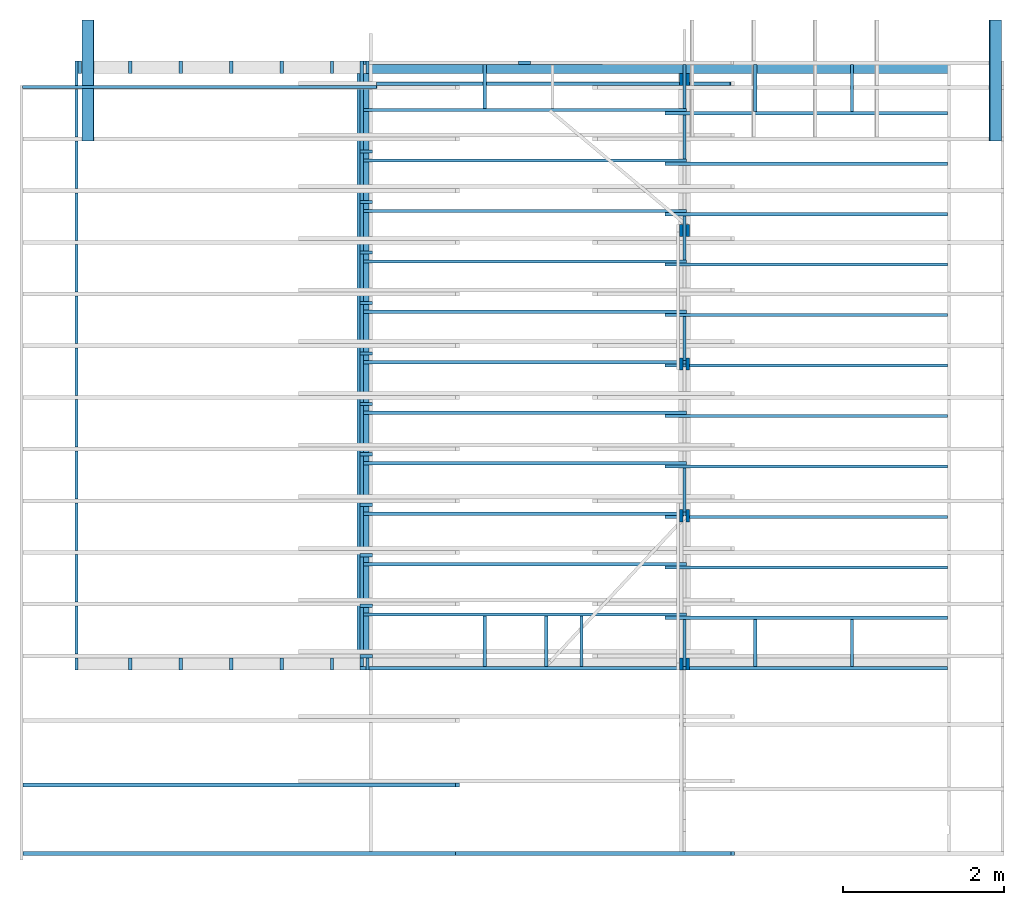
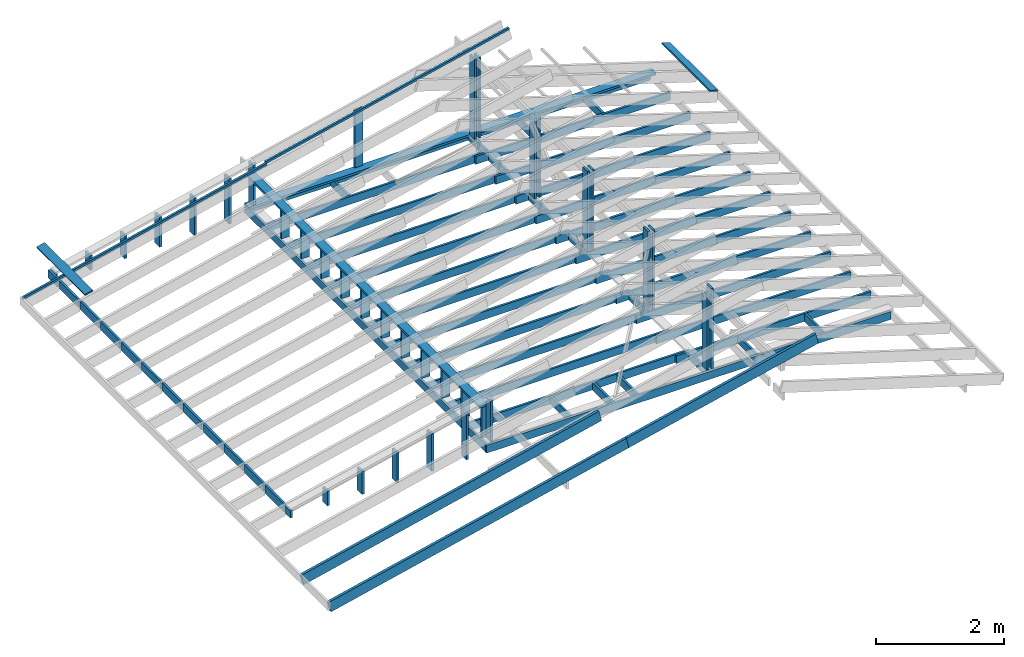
# One storey, part 1 of 6: 60 beams, 36 columns.
"""IFC4 building model written with IfcOpenShell, lengths in millimetres."""

from ifc_helpers import new_model, si_unit, derived_unit, frame, origin_with_axes, place, context, subcontext, project, spatial, line, indexed_curve, outline, extrude, polygons, source, transform, mapped, material, type_object, element, save


model = new_model("IFC4")

# Units and contexts
model_context = context("Model", 3, precision=1e-06, world=origin_with_axes())
body_context = subcontext(model_context, "Body", "Model", "MODEL_VIEW")
ifc_project = project(units=[si_unit("LENGTHUNIT", "METRE", prefix="MILLI"), si_unit("AREAUNIT", "SQUARE_METRE"), si_unit("VOLUMEUNIT", "CUBIC_METRE"), si_unit("MASSUNIT", "GRAM", prefix="KILO"), si_unit("ELECTRICVOLTAGEUNIT", "VOLT", prefix="KILO"), si_unit("THERMODYNAMICTEMPERATUREUNIT", "DEGREE_CELSIUS"), si_unit("PRESSUREUNIT", "PASCAL", prefix="MEGA"), si_unit("PLANEANGLEUNIT", "RADIAN"), derived_unit("THERMALCONDUCTANCEUNIT", [(si_unit("POWERUNIT", "WATT"), 1), (si_unit("LENGTHUNIT", "METRE"), -1), (si_unit("THERMODYNAMICTEMPERATUREUNIT", "KELVIN"), -1)]), derived_unit("MASSDENSITYUNIT", [(si_unit("MASSUNIT", "GRAM", prefix="KILO"), 1), (si_unit("VOLUMEUNIT", "CUBIC_METRE"), -1)])], contexts=[model_context])

# Site, building, storey
site_placement = place(None, origin_with_axes())
site = spatial("IfcSite", under=ifc_project, at=site_placement, CompositionType="ELEMENT")
building_placement = place(site_placement, origin_with_axes())
building = spatial("IfcBuilding", under=site, at=building_placement, CompositionType="ELEMENT")
storey_placement = place(building_placement, frame((0.0, 0.0, 2620.0), z_axis=(0.0, 0.0, 1.0), x_axis=(1.0, 0.0, 0.0)))
storey = spatial("IfcBuildingStorey", under=building, at=storey_placement, Name="Кровля", CompositionType="ELEMENT", Elevation=2620.0)

# Columns
ifc_material_1 = material(Name="Древесина тёмная")
column_type = type_object("IfcColumnType", Name="Доска 40x150", PredefinedType="COLUMN")
shared_shape_1 = source(origin_with_axes(), body_context, "Body", "SweptSolid", [
    extrude(outline(indexed_curve([(-75.0, -20.0), (75.0, -20.0), (75.0, 20.0), (-75.0, 20.0)], segments=[line(1, 2), line(2, 3), line(3, 4), line(4, 1)])), origin_with_axes(), (0.0, 0.0, 1.0), 587.0),
])
for number, where, z_axis, x_axis in (
    (1, (3607.5, 170.00000000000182, 190.0), (0.0, 0.0, 1.0), (1.0, 0.0, 0.0)),
    (2, (3607.5, 795.0000000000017, 190.0), (0.0, 0.0, 1.0), (1.0, 0.0, 0.0)),
    (3, (3607.5, 1420.0000000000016, 190.0), (0.0, 0.0, 1.0), (1.0, 0.0, 0.0)),
    (4, (3607.5, 2045.0000000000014, 190.0), (0.0, 0.0, 1.0), (1.0, 0.0, 0.0)),
    (5, (3607.5, 2670.0000000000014, 190.0), (0.0, 0.0, 1.0), (1.0, 0.0, 0.0)),
    (6, (3607.5, 3295.0000000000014, 190.0), (0.0, 0.0, 1.0), (1.0, 0.0, 0.0)),
    (7, (3607.5, 3920.000000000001, 190.0), (0.0, 0.0, 1.0), (1.0, 0.0, 0.0)),
    (8, (3607.5, 4545.000000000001, 190.0), (0.0, 0.0, 1.0), (1.0, 0.0, 0.0)),
    (9, (3607.5, 5170.000000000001, 190.0), (0.0, 0.0, 1.0), (1.0, 0.0, 0.0)),
    (10, (3607.5, 5795.000000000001, 190.0), (0.0, 0.0, 1.0), (1.0, 0.0, 0.0)),
    (11, (3607.5, 6420.000000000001, 190.0), (0.0, 0.0, 1.0), (1.0, 0.0, 0.0)),
):
    element("IfcColumn", number, at=place(storey_placement, frame(where, z_axis=z_axis, x_axis=x_axis)), inside=storey, type_object=column_type, material=ifc_material_1, Name="Колонна - Доска 40x150", context=body_context, shape_type="MappedRepresentation", body=[
        mapped(shared_shape_1, transform((0.0, 0.0, 0.0), x_axis=(1.0, 0.0, 0.0), y_axis=(0.0, 1.0, 0.0), z_axis=(0.0, 0.0, 1.0), scale=1.0)),
    ])
shared_shape_2 = source(origin_with_axes(), body_context, "Body", "SweptSolid", [
    extrude(outline(indexed_curve([(-75.0, -20.0), (75.0, -20.0), (75.0, 20.0), (-75.0, 20.0)], segments=[line(1, 2), line(2, 3), line(3, 4), line(4, 1)])), origin_with_axes(), (0.0, 0.0, 1.0), 1375.0),
])
column_1_placement = place(storey_placement, frame((7510.0, 74.99999999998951, 188.4051771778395), z_axis=(0.0, 0.0, 1.0), x_axis=(0.0, 1.0, 0.0)))
element("IfcColumn", 12, at=column_1_placement, inside=storey, type_object=column_type, material=ifc_material_1, Name="Колонна - Доска 40x150", context=body_context, shape_type="MappedRepresentation", body=[
    mapped(shared_shape_2, transform((0.0, 0.0, 0.0), x_axis=(1.0, 0.0, 0.0), y_axis=(0.0, 1.0, 0.0), z_axis=(0.0, 0.0, 1.0), scale=1.0)),
])
shared_shape_3 = source(origin_with_axes(), body_context, "Body", "SweptSolid", [
    extrude(outline(indexed_curve([(-75.0, -20.0), (75.0, -20.0), (75.0, 20.0), (-75.0, 20.0)], segments=[line(1, 2), line(2, 3), line(3, 4), line(4, 1)])), origin_with_axes(), (0.0, 0.0, 1.0), 1525.0),
])
for number, where, z_axis, x_axis in (
    (13, (7590.0, 74.99999999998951, 188.4051771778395), (0.0, 0.0, 1.0), (0.0, 1.0, 0.0)),
    (14, (7510.0, 1909.9999999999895, 188.4051771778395), (0.0, 0.0, 1.0), (0.0, 1.0, 0.0)),
    (15, (7590.0, 1909.9999999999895, 188.4051771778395), (0.0, 0.0, 1.0), (0.0, 1.0, 0.0)),
    (16, (7510.0, 3789.9999999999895, 188.4051771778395), (0.0, 0.0, 1.0), (0.0, 1.0, 0.0)),
    (17, (7590.0, 3789.9999999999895, 188.4051771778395), (0.0, 0.0, 1.0), (0.0, 1.0, 0.0)),
    (18, (7510.000000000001, 5444.999999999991, 188.4051771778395), (0.0, 0.0, 1.0), (0.0, 1.0, 0.0)),
    (19, (7590.000000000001, 5444.999999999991, 188.4051771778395), (0.0, 0.0, 1.0), (0.0, 1.0, 0.0)),
    (20, (7510.000000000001, 7314.999999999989, 188.4051771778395), (0.0, 0.0, 1.0), (0.0, 1.0, 0.0)),
    (21, (7590.000000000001, 7314.999999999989, 188.4051771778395), (0.0, 0.0, 1.0), (0.0, 1.0, 0.0)),
):
    element("IfcColumn", number, at=place(storey_placement, frame(where, z_axis=z_axis, x_axis=x_axis)), inside=storey, type_object=column_type, material=ifc_material_1, Name="Колонна - Доска 40x150", context=body_context, shape_type="MappedRepresentation", body=[
        mapped(shared_shape_3, transform((0.0, 0.0, 0.0), x_axis=(1.0, 0.0, 0.0), y_axis=(0.0, 1.0, 0.0), z_axis=(0.0, 0.0, 1.0), scale=1.0)),
    ])
shared_shape_4 = source(origin_with_axes(), body_context, "Body", "SweptSolid", [
    extrude(outline(indexed_curve([(-75.0, -20.0), (75.0, -20.0), (75.0, 20.0), (-75.0, 20.0)], segments=[line(1, 2), line(2, 3), line(3, 4), line(4, 1)])), origin_with_axes(), (0.0, 0.0, 1.0), 774.0),
])
for number, where, z_axis, x_axis in (
    (22, (3622.5, 74.99999999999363, 190.0), (0.0, 0.0, 1.0), (0.0, 1.0, 0.0)),
    (23, (3622.5000000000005, 7464.99999999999, 189.99999999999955), (0.0, 0.0, 1.0), (0.0, 1.0, 0.0)),
):
    element("IfcColumn", number, at=place(storey_placement, frame(where, z_axis=z_axis, x_axis=x_axis)), inside=storey, type_object=column_type, material=ifc_material_1, Name="Колонна - Доска 40x150", context=body_context, shape_type="MappedRepresentation", body=[
        mapped(shared_shape_4, transform((0.0, 0.0, 0.0), x_axis=(1.0, 0.0, 0.0), y_axis=(0.0, 1.0, 0.0), z_axis=(0.0, 0.0, 1.0), scale=1.0)),
    ])
shared_shape_5 = source(origin_with_axes(), body_context, "Body", "SweptSolid", [
    extrude(outline(indexed_curve([(-75.0, -20.0), (75.0, -20.0), (75.0, 20.0), (-75.0, 20.0)], segments=[line(1, 2), line(2, 3), line(3, 4), line(4, 1)])), origin_with_axes(), (0.0, 0.0, 1.0), 142.0),
])
for number, where, z_axis, x_axis in (
    (24, (20.0, 74.99999999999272, 0.0), (0.0, 0.0, 1.0), (0.0, 1.0, 0.0)),
    (25, (60.0, 7464.99999999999, -4.55e-13), (0.0, 0.0, 1.0), (0.0, 1.0, 0.0)),
):
    element("IfcColumn", number, at=place(storey_placement, frame(where, z_axis=z_axis, x_axis=x_axis)), inside=storey, type_object=column_type, material=ifc_material_1, Name="Колонна - Доска 40x150", context=body_context, shape_type="MappedRepresentation", body=[
        mapped(shared_shape_5, transform((0.0, 0.0, 0.0), x_axis=(1.0, 0.0, 0.0), y_axis=(0.0, 1.0, 0.0), z_axis=(0.0, 0.0, 1.0), scale=1.0)),
    ])
shared_shape_6 = source(origin_with_axes(), body_context, "Body", "SweptSolid", [
    extrude(outline(indexed_curve([(-75.0, -20.0), (75.0, -20.0), (75.0, 20.0), (-75.0, 20.0)], segments=[line(1, 2), line(2, 3), line(3, 4), line(4, 1)])), origin_with_axes(), (0.0, 0.0, 1.0), 280.0),
])
for number, where, z_axis, x_axis in (
    (26, (684.9999999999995, 74.99999999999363, 0.0), (0.0, 0.0, 1.0), (0.0, 1.0, 0.0)),
    (27, (684.9999999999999, 7464.99999999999, -4.55e-13), (0.0, 0.0, 1.0), (0.0, 1.0, 0.0)),
):
    element("IfcColumn", number, at=place(storey_placement, frame(where, z_axis=z_axis, x_axis=x_axis)), inside=storey, type_object=column_type, material=ifc_material_1, Name="Колонна - Доска 40x150", context=body_context, shape_type="MappedRepresentation", body=[
        mapped(shared_shape_6, transform((0.0, 0.0, 0.0), x_axis=(1.0, 0.0, 0.0), y_axis=(0.0, 1.0, 0.0), z_axis=(0.0, 0.0, 1.0), scale=1.0)),
    ])
shared_shape_7 = source(origin_with_axes(), body_context, "Body", "SweptSolid", [
    extrude(outline(indexed_curve([(-75.0, -20.0), (75.0, -20.0), (75.0, 20.0), (-75.0, 20.0)], segments=[line(1, 2), line(2, 3), line(3, 4), line(4, 1)])), origin_with_axes(), (0.0, 0.0, 1.0), 432.0),
])
for number, where, z_axis, x_axis in (
    (28, (1309.9999999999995, 74.99999999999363, 0.0), (0.0, 0.0, 1.0), (0.0, 1.0, 0.0)),
    (29, (1309.9999999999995, 7464.99999999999, -4.55e-13), (0.0, 0.0, 1.0), (0.0, 1.0, 0.0)),
):
    element("IfcColumn", number, at=place(storey_placement, frame(where, z_axis=z_axis, x_axis=x_axis)), inside=storey, type_object=column_type, material=ifc_material_1, Name="Колонна - Доска 40x150", context=body_context, shape_type="MappedRepresentation", body=[
        mapped(shared_shape_7, transform((0.0, 0.0, 0.0), x_axis=(1.0, 0.0, 0.0), y_axis=(0.0, 1.0, 0.0), z_axis=(0.0, 0.0, 1.0), scale=1.0)),
    ])
shared_shape_8 = source(origin_with_axes(), body_context, "Body", "SweptSolid", [
    extrude(outline(indexed_curve([(-75.0, -20.0), (75.0, -20.0), (75.0, 20.0), (-75.0, 20.0)], segments=[line(1, 2), line(2, 3), line(3, 4), line(4, 1)])), origin_with_axes(), (0.0, 0.0, 1.0), 570.0),
])
for number, where, z_axis, x_axis in (
    (30, (1934.9999999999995, 74.99999999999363, 0.0), (0.0, 0.0, 1.0), (0.0, 1.0, 0.0)),
    (31, (1934.999999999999, 7464.99999999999, -4.55e-13), (0.0, 0.0, 1.0), (0.0, 1.0, 0.0)),
):
    element("IfcColumn", number, at=place(storey_placement, frame(where, z_axis=z_axis, x_axis=x_axis)), inside=storey, type_object=column_type, material=ifc_material_1, Name="Колонна - Доска 40x150", context=body_context, shape_type="MappedRepresentation", body=[
        mapped(shared_shape_8, transform((0.0, 0.0, 0.0), x_axis=(1.0, 0.0, 0.0), y_axis=(0.0, 1.0, 0.0), z_axis=(0.0, 0.0, 1.0), scale=1.0)),
    ])
shared_shape_9 = source(origin_with_axes(), body_context, "Body", "SweptSolid", [
    extrude(outline(indexed_curve([(-75.0, -20.0), (75.0, -20.0), (75.0, 20.0), (-75.0, 20.0)], segments=[line(1, 2), line(2, 3), line(3, 4), line(4, 1)])), origin_with_axes(), (0.0, 0.0, 1.0), 708.0),
])
for number, where, z_axis, x_axis in (
    (32, (2559.9999999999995, 74.99999999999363, 0.0), (0.0, 0.0, 1.0), (0.0, 1.0, 0.0)),
    (33, (2560.0000000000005, 7464.99999999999, -4.55e-13), (0.0, 0.0, 1.0), (0.0, 1.0, 0.0)),
):
    element("IfcColumn", number, at=place(storey_placement, frame(where, z_axis=z_axis, x_axis=x_axis)), inside=storey, type_object=column_type, material=ifc_material_1, Name="Колонна - Доска 40x150", context=body_context, shape_type="MappedRepresentation", body=[
        mapped(shared_shape_9, transform((0.0, 0.0, 0.0), x_axis=(1.0, 0.0, 0.0), y_axis=(0.0, 1.0, 0.0), z_axis=(0.0, 0.0, 1.0), scale=1.0)),
    ])
shared_shape_10 = source(origin_with_axes(), body_context, "Body", "SweptSolid", [
    extrude(outline(indexed_curve([(-75.0, -20.0), (75.0, -20.0), (75.0, 20.0), (-75.0, 20.0)], segments=[line(1, 2), line(2, 3), line(3, 4), line(4, 1)])), origin_with_axes(), (0.0, 0.0, 1.0), 862.0),
])
for number, where, z_axis, x_axis in (
    (34, (3184.9999999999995, 74.99999999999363, 0.0), (0.0, 0.0, 1.0), (0.0, 1.0, 0.0)),
    (35, (3185.0000000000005, 7464.99999999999, -4.55e-13), (0.0, 0.0, 1.0), (0.0, 1.0, 0.0)),
):
    element("IfcColumn", number, at=place(storey_placement, frame(where, z_axis=z_axis, x_axis=x_axis)), inside=storey, type_object=column_type, material=ifc_material_1, Name="Колонна - Доска 40x150", context=body_context, shape_type="MappedRepresentation", body=[
        mapped(shared_shape_10, transform((0.0, 0.0, 0.0), x_axis=(1.0, 0.0, 0.0), y_axis=(0.0, 1.0, 0.0), z_axis=(0.0, 0.0, 1.0), scale=1.0)),
    ])
shared_shape_11 = source(origin_with_axes(), body_context, "Body", "SweptSolid", [
    extrude(outline(indexed_curve([(-75.0, -20.0), (75.0, -20.0), (75.0, 20.0), (-75.0, 20.0)], segments=[line(1, 2), line(2, 3), line(3, 4), line(4, 1)])), origin_with_axes(), (0.0, 0.0, 1.0), 1100.0),
])
column_2_placement = place(storey_placement, frame((5566.250000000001, 7519.99999999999, 189.99999999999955), z_axis=(0.0, 0.0, 1.0), x_axis=(1.0, 0.0, 0.0)))
element("IfcColumn", 36, at=column_2_placement, inside=storey, type_object=column_type, material=ifc_material_1, Name="Колонна - Доска 40x150", context=body_context, shape_type="MappedRepresentation", body=[
    mapped(shared_shape_11, transform((0.0, 0.0, 0.0), x_axis=(1.0, 0.0, 0.0), y_axis=(0.0, 1.0, 0.0), z_axis=(0.0, 0.0, 1.0), scale=1.0)),
])

# Beams
ifc_material_2 = material(Name="Древесина жел")
beam_type_1 = type_object("IfcBeamType", Name="Доска 40х150", PredefinedType="BEAM")
shared_shape_12 = source(origin_with_axes(), body_context, "Body", "SweptSolid", [
    extrude(outline(indexed_curve([(0.0, -40.0), (150.0, -40.0), (150.0, 4e-15), (0.0, 4e-15)], segments=[line(1, 2), line(2, 3), line(3, 4), line(4, 1)])), origin_with_axes(), (0.0, 0.0, -1.0), 7499.999999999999),
])
beam_1_placement = place(storey_placement, frame((3532.5, 39.99999999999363, 0.0), z_axis=(0.0, -1.0, 0.0), x_axis=(0.0, 0.0, 1.0)))
element("IfcBeam", 37, at=beam_1_placement, inside=storey, type_object=beam_type_1, material=ifc_material_2, Name="Балка - Доска 40х150", context=body_context, shape_type="MappedRepresentation", body=[
    mapped(shared_shape_12, transform((0.0, 0.0, 0.0), x_axis=(1.0, 0.0, 0.0), y_axis=(0.0, 1.0, 0.0), z_axis=(0.0, 0.0, 1.0), scale=1.0)),
])
shared_shape_13 = source(origin_with_axes(), body_context, "Body", "SweptSolid", [
    extrude(outline(indexed_curve([(0.0, -19.999999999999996), (150.0, -19.999999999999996), (150.0, 20.000000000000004), (0.0, 20.000000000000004)], segments=[line(1, 2), line(2, 3), line(3, 4), line(4, 1)])), origin_with_axes(), (0.0, 0.0, -1.0), 7272.5000000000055),
])
beam_2_placement = place(storey_placement, frame((3532.5, 19.99999999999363, 0.0), z_axis=(-1.0, 0.0, 0.0), x_axis=(0.0, 0.0, 1.0)))
element("IfcBeam", 38, at=beam_2_placement, inside=storey, type_object=beam_type_1, material=ifc_material_2, Name="Балка - Доска 40х150", context=body_context, shape_type="MappedRepresentation", body=[
    mapped(shared_shape_13, transform((0.0, 0.0, 0.0), x_axis=(1.0, 0.0, 0.0), y_axis=(0.0, 1.0, 0.0), z_axis=(0.0, 0.0, 1.0), scale=1.0)),
])
shared_shape_14 = source(origin_with_axes(), body_context, "Body", "SweptSolid", [
    extrude(outline(indexed_curve([(0.0, -19.999999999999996), (150.0, -19.999999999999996), (150.0, 20.000000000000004), (0.0, 20.000000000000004)], segments=[line(1, 2), line(2, 3), line(3, 4), line(4, 1)])), origin_with_axes(), (0.0, 0.0, -1.0), 7232.500000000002),
])
beam_3_placement = place(storey_placement, frame((3572.5, 7519.9999999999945, 0.0), z_axis=(-1.0, 0.0, 0.0), x_axis=(0.0, 0.0, 1.0)))
element("IfcBeam", 39, at=beam_3_placement, inside=storey, type_object=beam_type_1, material=ifc_material_2, Name="Балка - Доска 40х150", context=body_context, shape_type="MappedRepresentation", body=[
    mapped(shared_shape_14, transform((0.0, 0.0, 0.0), x_axis=(1.0, 0.0, 0.0), y_axis=(0.0, 1.0, 0.0), z_axis=(0.0, 0.0, 1.0), scale=1.0)),
])
shared_shape_15 = source(origin_with_axes(), body_context, "Body", "SweptSolid", [
    extrude(outline(indexed_curve([(0.0, -19.999999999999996), (150.0, -19.999999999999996), (150.0, 20.000000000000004), (0.0, 20.000000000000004)], segments=[line(1, 2), line(2, 3), line(3, 4), line(4, 1)])), origin_with_axes(), (0.0, 0.0, -1.0), 3500.0),
])
for number, where, z_axis, x_axis in (
    (40, (7305.000000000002, 644.9999999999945, 0.0), (-1.0, 0.0, 0.0), (0.0, 0.0, 1.0)),
    (41, (7305.000000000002, 1269.9999999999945, 0.0), (-1.0, 0.0, 0.0), (0.0, 0.0, 1.0)),
    (42, (7305.000000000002, 1894.9999999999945, 0.0), (-1.0, 0.0, 0.0), (0.0, 0.0, 1.0)),
    (43, (7305.000000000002, 2519.9999999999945, 0.0), (-1.0, 0.0, 0.0), (0.0, 0.0, 1.0)),
    (44, (7305.000000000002, 3144.9999999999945, 0.0), (-1.0, 0.0, 0.0), (0.0, 0.0, 1.0)),
    (45, (7305.000000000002, 3769.9999999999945, 0.0), (-1.0, 0.0, 0.0), (0.0, 0.0, 1.0)),
    (46, (7305.000000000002, 4394.9999999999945, 0.0), (-1.0, 0.0, 0.0), (0.0, 0.0, 1.0)),
    (47, (7305.000000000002, 5019.9999999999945, 0.0), (-1.0, 0.0, 0.0), (0.0, 0.0, 1.0)),
    (48, (7305.000000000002, 5644.9999999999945, 0.0), (-1.0, 0.0, 0.0), (0.0, 0.0, 1.0)),
    (49, (7305.000000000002, 6269.9999999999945, 0.0), (-1.0, 0.0, 0.0), (0.0, 0.0, 1.0)),
    (50, (7305.000000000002, 6894.9999999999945, 0.0), (-1.0, 0.0, 0.0), (0.0, 0.0, 1.0)),
):
    element("IfcBeam", number, at=place(storey_placement, frame(where, z_axis=z_axis, x_axis=x_axis)), inside=storey, type_object=beam_type_1, material=ifc_material_2, Name="Балка - Доска 40х150", context=body_context, shape_type="MappedRepresentation", body=[
        mapped(shared_shape_15, transform((0.0, 0.0, 0.0), x_axis=(1.0, 0.0, 0.0), y_axis=(0.0, 1.0, 0.0), z_axis=(0.0, 0.0, 1.0), scale=1.0)),
    ])
shared_shape_16 = source(origin_with_axes(), body_context, "Body", "SweptSolid", [
    extrude(outline(indexed_curve([(0.0, -19.999999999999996), (150.0, -19.999999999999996), (150.0, 20.000000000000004), (0.0, 20.000000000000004)], segments=[line(1, 2), line(2, 3), line(3, 4), line(4, 1)])), origin_with_axes(), (0.0, 0.0, -1.0), 585.0000000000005),
])
for number, where, z_axis, x_axis in (
    (51, (9625.000000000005, 39.999999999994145, 0.0), (0.0, -1.0, 0.0), (0.0, 0.0, 1.0)),
    (52, (8425.000000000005, 39.999999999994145, 0.0), (0.0, -1.0, 0.0), (0.0, 0.0, 1.0)),
    (53, (7550.0, 39.99999999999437, 0.0), (0.0, -1.0, 0.0), (0.0, 0.0, 1.0)),
    (54, (9625.000000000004, 6914.9999999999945, 0.0), (0.0, -1.0, 0.0), (0.0, 0.0, 1.0)),
    (55, (8425.0, 6914.9999999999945, 0.0), (0.0, -1.0, 0.0), (0.0, 0.0, 1.0)),
):
    element("IfcBeam", number, at=place(storey_placement, frame(where, z_axis=z_axis, x_axis=x_axis)), inside=storey, type_object=beam_type_1, material=ifc_material_2, Name="Балка - Доска 40х150", context=body_context, shape_type="MappedRepresentation", body=[
        mapped(shared_shape_16, transform((0.0, 0.0, 0.0), x_axis=(1.0, 0.0, 0.0), y_axis=(0.0, 1.0, 0.0), z_axis=(0.0, 0.0, 1.0), scale=1.0)),
    ])
ifc_material_3 = material(Name="Древесина конструктивная")
shared_shape_17 = source(origin_with_axes(), body_context, "Body", "SweptSolid", [
    extrude(outline(indexed_curve([(-150.0, 0.0), (0.0, 0.0), (0.0, 40.0), (-150.0, 40.0)], segments=[line(1, 2), line(2, 3), line(3, 4), line(4, 1)])), origin_with_axes(), (0.0, 0.0, -1.0), 7239.999999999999),
])
beam_4_placement = place(storey_placement, frame((3492.4999999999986, 7389.999999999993, 777.4919740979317), z_axis=(0.0, 1.0, 0.0), x_axis=(-1.0, 0.0, 0.0)))
element("IfcBeam", 56, at=beam_4_placement, inside=storey, type_object=beam_type_1, material=ifc_material_3, Name="Балка - Доска 40х150", context=body_context, shape_type="MappedRepresentation", body=[
    mapped(shared_shape_17, transform((0.0, 0.0, 0.0), x_axis=(1.0, 0.0, 0.0), y_axis=(0.0, 1.0, 0.0), z_axis=(0.0, 0.0, 1.0), scale=1.0)),
])
shared_shape_18 = source(origin_with_axes(), body_context, "Body", "SweptSolid", [
    extrude(outline(indexed_curve([(0.0, -19.999999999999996), (150.0, -19.999999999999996), (150.0, 20.000000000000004), (0.0, 20.000000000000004)], segments=[line(1, 2), line(2, 3), line(3, 4), line(4, 1)])), origin_with_axes(), (0.0, 0.0, -1.0), 625.0000000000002),
])
for number, where, z_axis, x_axis in (
    (57, (6275.000000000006, 39.999999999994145, 0.0), (0.0, -1.0, 0.0), (0.0, 0.0, 1.0)),
    (58, (5075.000000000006, 39.999999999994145, 0.0), (0.0, -1.0, 0.0), (0.0, 0.0, 1.0)),
    (59, (5836.051422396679, 39.99999999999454, 0.0), (0.0, -1.0, 0.0), (0.0, 0.0, 1.0)),
):
    element("IfcBeam", number, at=place(storey_placement, frame(where, z_axis=z_axis, x_axis=x_axis)), inside=storey, type_object=beam_type_1, material=ifc_material_2, Name="Балка - Доска 40х150", context=body_context, shape_type="MappedRepresentation", body=[
        mapped(shared_shape_18, transform((0.0, 0.0, 0.0), x_axis=(1.0, 0.0, 0.0), y_axis=(0.0, 1.0, 0.0), z_axis=(0.0, 0.0, 1.0), scale=1.0)),
    ])
shared_shape_19 = source(origin_with_axes(), body_context, "Body", "SweptSolid", [
    extrude(outline(indexed_curve([(0.0, -19.999999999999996), (150.0, -19.999999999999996), (150.0, 20.000000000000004), (0.0, 20.000000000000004)], segments=[line(1, 2), line(2, 3), line(3, 4), line(4, 1)])), origin_with_axes(), (0.0, 0.0, -1.0), 4000.0),
])
for number, where, z_axis, x_axis in (
    (60, (3572.5, 684.9999999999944, 0.0), (-1.0, 0.0, 0.0), (0.0, 0.0, 1.0)),
    (61, (3572.5, 1309.9999999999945, 0.0), (-1.0, 0.0, 0.0), (0.0, 0.0, 1.0)),
    (62, (3572.5, 1934.9999999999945, 0.0), (-1.0, 0.0, 0.0), (0.0, 0.0, 1.0)),
    (63, (3572.5, 2559.9999999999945, 0.0), (-1.0, 0.0, 0.0), (0.0, 0.0, 1.0)),
    (64, (3572.5, 3184.9999999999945, 0.0), (-1.0, 0.0, 0.0), (0.0, 0.0, 1.0)),
    (65, (3572.5, 3809.9999999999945, 0.0), (-1.0, 0.0, 0.0), (0.0, 0.0, 1.0)),
    (66, (3572.5, 4434.9999999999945, 0.0), (-1.0, 0.0, 0.0), (0.0, 0.0, 1.0)),
    (67, (3572.5, 5059.9999999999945, 0.0), (-1.0, 0.0, 0.0), (0.0, 0.0, 1.0)),
    (68, (3572.5, 5684.9999999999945, 0.0), (-1.0, 0.0, 0.0), (0.0, 0.0, 1.0)),
    (69, (3572.5, 6309.9999999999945, 0.0), (-1.0, 0.0, 0.0), (0.0, 0.0, 1.0)),
    (70, (3572.5, 6934.9999999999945, 0.0), (-1.0, 0.0, 0.0), (0.0, 0.0, 1.0)),
):
    element("IfcBeam", number, at=place(storey_placement, frame(where, z_axis=z_axis, x_axis=x_axis)), inside=storey, type_object=beam_type_1, material=ifc_material_2, Name="Балка - Доска 40х150", context=body_context, shape_type="MappedRepresentation", body=[
        mapped(shared_shape_19, transform((0.0, 0.0, 0.0), x_axis=(1.0, 0.0, 0.0), y_axis=(0.0, 1.0, 0.0), z_axis=(0.0, 0.0, 1.0), scale=1.0)),
    ])
shared_shape_20 = source(origin_with_axes(), body_context, "Body", "SweptSolid", [
    extrude(outline(indexed_curve([(0.0, -19.999999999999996), (150.0, -19.999999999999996), (150.0, 20.000000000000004), (0.0, 20.000000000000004)], segments=[line(1, 2), line(2, 3), line(3, 4), line(4, 1)])), origin_with_axes(), (0.0, 0.0, -1.0), 545.0),
])
for number, where, z_axis, x_axis in (
    (71, (7550.0, 6954.9999999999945, 0.0), (0.0, -1.0, 0.0), (0.0, 0.0, 1.0)),
    (72, (7550.0, 6329.9999999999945, 0.0), (0.0, -1.0, 0.0), (0.0, 0.0, 1.0)),
    (73, (5075.0000000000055, 6954.9999999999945, 0.0), (0.0, -1.0, 0.0), (0.0, 0.0, 1.0)),
    (74, (7550.0, 5079.9999999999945, 0.0), (0.0, -1.0, 0.0), (0.0, 0.0, 1.0)),
    (75, (7550.0, 3829.9999999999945, 0.0), (0.0, -1.0, 0.0), (0.0, 0.0, 1.0)),
    (76, (7549.999999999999, 1954.9999999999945, 0.0), (0.0, -1.0, 0.0), (0.0, 0.0, 1.0)),
):
    element("IfcBeam", number, at=place(storey_placement, frame(where, z_axis=z_axis, x_axis=x_axis)), inside=storey, type_object=beam_type_1, material=ifc_material_2, Name="Балка - Доска 40х150", context=body_context, shape_type="MappedRepresentation", body=[
        mapped(shared_shape_20, transform((0.0, 0.0, 0.0), x_axis=(1.0, 0.0, 0.0), y_axis=(0.0, 1.0, 0.0), z_axis=(0.0, 0.0, 1.0), scale=1.0)),
    ])
shared_shape_21 = source(origin_with_axes(), body_context, "Body", "SweptSolid", [
    extrude(outline(indexed_curve([(0.0, 0.0), (150.0, 0.0), (150.0, 40.0), (0.0, 40.0)], segments=[line(1, 2), line(2, 3), line(3, 4), line(4, 1)])), origin_with_axes(), (0.0, 0.0, -1.0), 7312.5000000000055),
])
beam_5_placement = place(storey_placement, frame((3532.5, 7539.99999999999, 150.0), z_axis=(-1.0, 0.0, 0.0), x_axis=(0.0, -1.0, 0.0)))
element("IfcBeam", 77, at=beam_5_placement, inside=storey, type_object=beam_type_1, material=ifc_material_3, Name="Балка - Доска 40х150", context=body_context, shape_type="MappedRepresentation", body=[
    mapped(shared_shape_21, transform((0.0, 0.0, 0.0), x_axis=(1.0, 0.0, 0.0), y_axis=(0.0, 1.0, 0.0), z_axis=(0.0, 0.0, 1.0), scale=1.0)),
])
shared_shape_22 = source(origin_with_axes(), body_context, "Body", "SweptSolid", [
    extrude(outline(indexed_curve([(-150.0, -4e-15), (0.0, -4e-15), (0.0, 40.0), (-150.0, 40.0)], segments=[line(1, 2), line(2, 3), line(3, 4), line(4, 1)])), origin_with_axes(), (0.0, 0.0, -1.0), 589.9999999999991),
])
for number, where, z_axis, x_axis in (
    (78, (0.0, 1429.9999999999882, 149.99999999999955), (0.0, 1.0, 0.0), (0.0, 0.0, 1.0)),
    (79, (1.14e-13, 789.9999999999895, 149.99999999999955), (0.0, 1.0, -1e-15), (0.0, 1e-15, 1.0)),
    (80, (0.0, 2069.999999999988, 149.99999999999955), (0.0, 1.0, 0.0), (0.0, 0.0, 1.0)),
    (81, (0.0, 2709.999999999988, 149.99999999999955), (0.0, 1.0, 0.0), (0.0, 0.0, 1.0)),
    (82, (0.0, 3349.999999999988, 149.99999999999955), (0.0, 1.0, 0.0), (0.0, 0.0, 1.0)),
    (83, (0.0, 3989.999999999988, 149.99999999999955), (0.0, 1.0, 0.0), (0.0, 0.0, 1.0)),
    (84, (0.0, 4629.999999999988, 149.99999999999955), (0.0, 1.0, 0.0), (0.0, 0.0, 1.0)),
    (85, (0.0, 5269.999999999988, 149.99999999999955), (0.0, 1.0, 0.0), (0.0, 0.0, 1.0)),
    (86, (0.0, 5909.999999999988, 149.99999999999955), (0.0, 1.0, 0.0), (0.0, 0.0, 1.0)),
    (87, (0.0, 6549.999999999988, 149.99999999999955), (0.0, 1.0, 0.0), (0.0, 0.0, 1.0)),
    (88, (0.0, 7189.999999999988, 149.99999999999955), (0.0, 1.0, 0.0), (0.0, 0.0, 1.0)),
):
    element("IfcBeam", number, at=place(storey_placement, frame(where, z_axis=z_axis, x_axis=x_axis)), inside=storey, type_object=beam_type_1, material=ifc_material_2, Name="Балка - Доска 40х150", context=body_context, shape_type="MappedRepresentation", body=[
        mapped(shared_shape_22, transform((0.0, 0.0, 0.0), x_axis=(1.0, 0.0, 0.0), y_axis=(0.0, 1.0, 0.0), z_axis=(0.0, 0.0, 1.0), scale=1.0)),
    ])
shared_shape_23 = source(origin_with_axes(), body_context, "Body", "SweptSolid", [
    extrude(outline(indexed_curve([(-150.0, -4e-15), (0.0, -4e-15), (0.0, 40.0), (-150.0, 40.0)], segments=[line(1, 2), line(2, 3), line(3, 4), line(4, 1)])), origin_with_axes(), (0.0, 0.0, -1.0), 300.00000000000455),
])
beam_6_placement = place(storey_placement, frame((0.0, 7539.999999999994, 149.99999999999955), z_axis=(0.0, 1.0, 0.0), x_axis=(0.0, 0.0, 1.0)))
element("IfcBeam", 89, at=beam_6_placement, inside=storey, type_object=beam_type_1, material=ifc_material_2, Name="Балка - Доска 40х150", context=body_context, shape_type="MappedRepresentation", body=[
    mapped(shared_shape_23, transform((0.0, 0.0, 0.0), x_axis=(1.0, 0.0, 0.0), y_axis=(0.0, 1.0, 0.0), z_axis=(0.0, 0.0, 1.0), scale=1.0)),
])
ifc_material_4 = material(Name="Древесина белая крашенная")
beam_type_2 = type_object("IfcBeamType", Name="Доска 50х200", PredefinedType="BEAM")
shared_shape_24 = source(origin_with_axes(), body_context, "Body", "SweptSolid", [
    extrude(outline(indexed_curve([(0.0, -49.99999999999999), (200.0, -49.99999999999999), (200.0, 7e-15), (0.0, 7e-15)], segments=[line(1, 2), line(2, 3), line(3, 4), line(4, 1)])), origin_with_axes(), (0.0, 0.0, -1.0), 3500.0000000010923),
])
beam_7_placement = place(storey_placement, frame((4760.965415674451, -2250.0000000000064, 1068.6190449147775), z_axis=(-0.97394399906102, 0.0, -0.226788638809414), x_axis=(-0.226788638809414, 0.0, 0.97394399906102)))
element("IfcBeam", 90, at=beam_7_placement, inside=storey, type_object=beam_type_2, material=ifc_material_4, Name="Балка - Доска 50х200", context=body_context, shape_type="MappedRepresentation", body=[
    mapped(shared_shape_24, transform((0.0, 0.0, 0.0), x_axis=(1.0, 0.0, 0.0), y_axis=(0.0, 1.0, 0.0), z_axis=(0.0, 0.0, 1.0), scale=1.0)),
])
shared_shape_25 = source(origin_with_axes(), body_context, "Body", "Tessellation", [
    polygons([(0.0, -4.69e-13, -4351.612190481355), (-4.55e-13, 9.071545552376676, -4353.724553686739), (0.0, -4.71e-13, -4392.682313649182), (0.0, -1.364e-12, -5500.000000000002), (0.0, 199.99999999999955, -5500.000000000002), (0.0, 199.99999999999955, 0.0), (0.0, 0.0, 0.0), (-50.000000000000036, 9.071545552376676, -4353.724553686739), (-50.0, -3.31e-13, -4351.612190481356), (-50.0, 0.0, 0.0), (-50.0, 199.99999999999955, 0.0), (-50.0, 199.9999999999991, -5500.000000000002), (-50.0, -4.55e-13, -5500.000000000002), (-50.0, -3.35e-13, -4392.682313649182)], [[[1, 2, 3, 4, 5, 6, 7]], [[8, 9, 10, 11, 12, 13, 14]], [[9, 1, 7, 10]], [[3, 14, 13, 4]], [[14, 3, 2, 8]], [[1, 9, 8, 2]], [[4, 13, 12, 5]], [[11, 6, 5, 12]], [[7, 6, 11, 10]]], closed=True),
])
beam_8_placement = place(storey_placement, frame((-595.7265791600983, -2300.0000000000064, -178.71846853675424), z_axis=(-0.973943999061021, 0.0, -0.226788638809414), x_axis=(-0.226788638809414, 0.0, 0.973943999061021)))
element("IfcBeam", 91, at=beam_8_placement, inside=storey, type_object=beam_type_2, material=ifc_material_4, Name="Балка - Доска 50х200", context=body_context, shape_type="MappedRepresentation", body=[
    mapped(shared_shape_25, transform((0.0, 0.0, 0.0), x_axis=(0.0, -1.0, 0.0), y_axis=(1.0, 0.0, 0.0), z_axis=(0.0, 0.0, 1.0), scale=1.0)),
])
ifc_material_5 = material(Name="Древесина оранж")
shared_shape_26 = source(origin_with_axes(), body_context, "Body", "Tessellation", [
    polygons([(0.0, -4.69e-13, -4351.6121904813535), (-4.55e-13, 9.071545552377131, -4353.724553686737), (0.0, -4.71e-13, -4392.682313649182), (0.0, -1.364e-12, -5500.000000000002), (0.0, 199.99999999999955, -5500.000000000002), (0.0, 199.99999999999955, 0.0), (0.0, 0.0, 0.0), (-50.000000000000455, 9.071545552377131, -4353.724553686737), (-50.0, -3.31e-13, -4351.612190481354), (-50.0, 0.0, 0.0), (-50.0, 199.99999999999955, 0.0), (-50.0, 199.9999999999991, -5500.000000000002), (-50.0, -4.55e-13, -5500.000000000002), (-50.0, -3.35e-13, -4392.682313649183)], [[[1, 2, 3, 4, 5, 6, 7]], [[8, 9, 10, 11, 12, 13, 14]], [[9, 1, 7, 10]], [[3, 14, 13, 4]], [[14, 3, 2, 8]], [[1, 9, 8, 2]], [[4, 13, 12, 5]], [[11, 6, 5, 12]], [[7, 6, 11, 10]]], closed=True),
])
beam_9_placement = place(storey_placement, frame((-595.7265791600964, -1450.0000000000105, -178.7184685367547), z_axis=(-0.973943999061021, 0.0, -0.226788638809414), x_axis=(-0.226788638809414, 0.0, 0.973943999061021)))
element("IfcBeam", 92, at=beam_9_placement, inside=storey, type_object=beam_type_2, material=ifc_material_5, Name="Балка - Доска 50х200", context=body_context, shape_type="MappedRepresentation", body=[
    mapped(shared_shape_26, transform((0.0, 0.0, 0.0), x_axis=(0.0, -1.0, 0.0), y_axis=(1.0, 0.0, 0.0), z_axis=(0.0, 0.0, 1.0), scale=1.0)),
])
ifc_material_6 = material(Name="Древесина зел")
beam_type_3 = type_object("IfcBeamType", Name="Доска 25х150", PredefinedType="BEAM")
shared_shape_27 = source(origin_with_axes(), body_context, "Body", "SweptSolid", [
    extrude(outline(indexed_curve([(-150.0, -25.000000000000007), (0.0, -25.000000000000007), (0.0, -5e-15), (-150.0, -5e-15)], segments=[line(1, 2), line(2, 3), line(3, 4), line(4, 1)])), origin_with_axes(), (0.0, 0.0, -1.0), 1500.0),
])
beam_10_placement = place(storey_placement, frame((11323.834335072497, 6549.999999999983, 173.23154575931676), z_axis=(0.0, -1.0, 0.0), x_axis=(-0.953716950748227, 0.0, 0.300705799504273)))
element("IfcBeam", 93, at=beam_10_placement, inside=storey, type_object=beam_type_3, material=ifc_material_6, Name="Балка - Доска 25х150", context=body_context, shape_type="MappedRepresentation", body=[
    mapped(shared_shape_27, transform((0.0, 0.0, 0.0), x_axis=(1.0, 0.0, 0.0), y_axis=(0.0, 1.0, 0.0), z_axis=(0.0, 0.0, 1.0), scale=1.0)),
])
beam_type_4 = type_object("IfcBeamType", Name="Брус 40х40", PredefinedType="BEAM")
shared_shape_28 = source(origin_with_axes(), body_context, "Body", "SweptSolid", [
    extrude(outline(indexed_curve([(-40.0, 0.0), (0.0, 0.0), (0.0, 40.0), (-40.0, 40.0)], segments=[line(1, 2), line(2, 3), line(3, 4), line(4, 1)])), origin_with_axes(), (0.0, 0.0, -1.0), 4500.000000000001),
])
for number, where, z_axis, x_axis in (
    (94, (3741.6636888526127, 7239.999999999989, 1036.6192059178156), (0.97394399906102, 0.0, 0.226788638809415), (0.0, 1.0, 0.0)),
    (95, (8124.411684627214, 7279.999999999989, 2057.1680805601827), (0.97394399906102, 0.0, 0.226788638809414), (0.0, 1.0, 0.0)),
):
    element("IfcBeam", number, at=place(storey_placement, frame(where, z_axis=z_axis, x_axis=x_axis)), inside=storey, type_object=beam_type_4, material=ifc_material_6, Name="Балка - Брус 40х40", context=body_context, shape_type="MappedRepresentation", body=[
        mapped(shared_shape_28, transform((0.0, 0.0, 0.0), x_axis=(1.0, 0.0, 0.0), y_axis=(0.0, 1.0, 0.0), z_axis=(0.0, 0.0, 1.0), scale=1.0)),
    ])
shared_shape_29 = source(origin_with_axes(), body_context, "Body", "SweptSolid", [
    extrude(outline(indexed_curve([(0.0, 0.0), (150.0, 0.0), (150.0, 25.0), (0.0, 25.0)], segments=[line(1, 2), line(2, 3), line(3, 4), line(4, 1)])), origin_with_axes(), (0.0, 0.0, -1.0), 1500.0),
])
beam_11_placement = place(storey_placement, frame((89.6102809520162, 6549.999999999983, 227.28702460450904), z_axis=(0.0, -1.0, 0.0), x_axis=(0.973936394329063, 0.0, 0.226821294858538)))
element("IfcBeam", 96, at=beam_11_placement, inside=storey, type_object=beam_type_3, material=ifc_material_6, Name="Балка - Доска 25х150", context=body_context, shape_type="MappedRepresentation", body=[
    mapped(shared_shape_29, transform((0.0, 0.0, 0.0), x_axis=(1.0, 0.0, 0.0), y_axis=(0.0, 1.0, 0.0), z_axis=(0.0, 0.0, 1.0), scale=1.0)),
])

save(model, "model.ifc")
